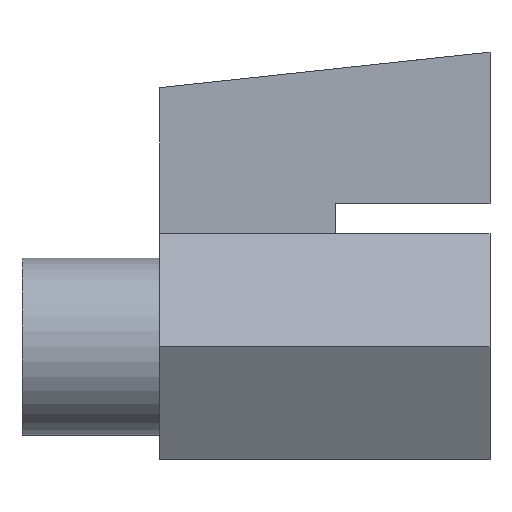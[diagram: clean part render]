
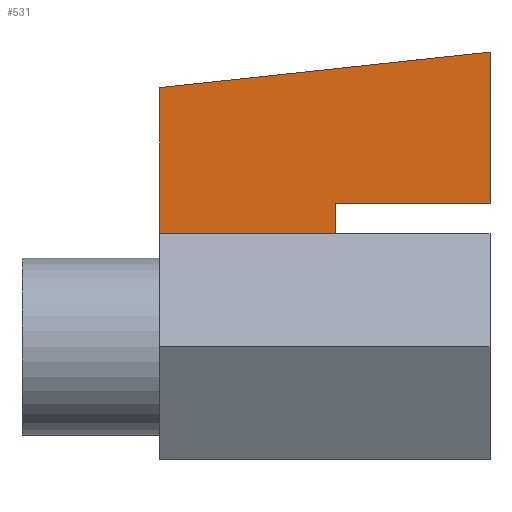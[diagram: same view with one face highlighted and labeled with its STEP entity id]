
A CAD part, front view. The second image highlights one B-rep face of the part: STEP entity #531.
In plain terms, the highlighted planar face has unit normal (0, -1, 0).
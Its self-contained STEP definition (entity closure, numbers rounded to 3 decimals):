
#67 = PLANE('',#68);
#68 = AXIS2_PLACEMENT_3D('',#69,#70,#71);
#69 = CARTESIAN_POINT('',(-0.6,0.18,1.006));
#70 = DIRECTION('',(-0.107,0.,0.994));
#71 = DIRECTION('',(-0.994,0.,-0.107));
#188 = EDGE_CURVE('',#189,#191,#193,.T.);
#189 = VERTEX_POINT('',#190);
#190 = CARTESIAN_POINT('',(0.,-0.18,0.52));
#191 = VERTEX_POINT('',#192);
#192 = CARTESIAN_POINT('',(-0.56,-0.18,0.52));
#193 = SURFACE_CURVE('',#194,(#198,#210),.PCURVE_S1.);
#194 = LINE('',#195,#196);
#195 = CARTESIAN_POINT('',(0.,-0.18,0.52));
#196 = VECTOR('',#197,1.);
#197 = DIRECTION('',(-1.,0.,0.));
#198 = PCURVE('',#199,#204);
#199 = PLANE('',#200);
#200 = AXIS2_PLACEMENT_3D('',#201,#202,#203);
#201 = CARTESIAN_POINT('',(-0.28,0.18,0.52));
#202 = DIRECTION('',(0.,0.,-1.));
#203 = DIRECTION('',(1.,0.,0.));
#204 = DEFINITIONAL_REPRESENTATION('',(#205),#209);
#205 = LINE('',#206,#207);
#206 = CARTESIAN_POINT('',(0.28,0.36));
#207 = VECTOR('',#208,1.);
#208 = DIRECTION('',(-1.,0.));
#209 = ( GEOMETRIC_REPRESENTATION_CONTEXT(2) 
PARAMETRIC_REPRESENTATION_CONTEXT() REPRESENTATION_CONTEXT('2D SPACE',''
  ) );
#210 = PCURVE('',#211,#216);
#211 = PLANE('',#212);
#212 = AXIS2_PLACEMENT_3D('',#213,#214,#215);
#213 = CARTESIAN_POINT('',(-0.595,-0.18,0.727));
#214 = DIRECTION('',(0.,1.,0.));
#215 = DIRECTION('',(0.,-0.,1.));
#216 = DEFINITIONAL_REPRESENTATION('',(#217),#221);
#217 = LINE('',#218,#219);
#218 = CARTESIAN_POINT('',(-0.207,0.595));
#219 = VECTOR('',#220,1.);
#220 = DIRECTION('',(0.,-1.));
#221 = ( GEOMETRIC_REPRESENTATION_CONTEXT(2) 
PARAMETRIC_REPRESENTATION_CONTEXT() REPRESENTATION_CONTEXT('2D SPACE',''
  ) );
#239 = PLANE('',#240);
#240 = AXIS2_PLACEMENT_3D('',#241,#242,#243);
#241 = CARTESIAN_POINT('',(-0.56,0.18,0.466));
#242 = DIRECTION('',(1.,0.,0.));
#243 = DIRECTION('',(0.,0.,1.));
#293 = PLANE('',#294);
#294 = AXIS2_PLACEMENT_3D('',#295,#296,#297);
#295 = CARTESIAN_POINT('',(0.,0.18,0.795));
#296 = DIRECTION('',(1.,0.,0.));
#297 = DIRECTION('',(0.,0.,1.));
#308 = EDGE_CURVE('',#191,#309,#311,.T.);
#309 = VERTEX_POINT('',#310);
#310 = CARTESIAN_POINT('',(-0.56,-0.18,0.411));
#311 = SURFACE_CURVE('',#312,(#316,#323),.PCURVE_S1.);
#312 = LINE('',#313,#314);
#313 = CARTESIAN_POINT('',(-0.56,-0.18,0.52));
#314 = VECTOR('',#315,1.);
#315 = DIRECTION('',(0.,0.,-1.));
#316 = PCURVE('',#239,#317);
#317 = DEFINITIONAL_REPRESENTATION('',(#318),#322);
#318 = LINE('',#319,#320);
#319 = CARTESIAN_POINT('',(0.055,0.36));
#320 = VECTOR('',#321,1.);
#321 = DIRECTION('',(-1.,0.));
#322 = ( GEOMETRIC_REPRESENTATION_CONTEXT(2) 
PARAMETRIC_REPRESENTATION_CONTEXT() REPRESENTATION_CONTEXT('2D SPACE',''
  ) );
#323 = PCURVE('',#211,#324);
#324 = DEFINITIONAL_REPRESENTATION('',(#325),#329);
#325 = LINE('',#326,#327);
#326 = CARTESIAN_POINT('',(-0.207,0.035));
#327 = VECTOR('',#328,1.);
#328 = DIRECTION('',(-1.,0.));
#329 = ( GEOMETRIC_REPRESENTATION_CONTEXT(2) 
PARAMETRIC_REPRESENTATION_CONTEXT() REPRESENTATION_CONTEXT('2D SPACE',''
  ) );
#347 = PLANE('',#348);
#348 = AXIS2_PLACEMENT_3D('',#349,#350,#351);
#349 = CARTESIAN_POINT('',(0.,0.,0.411));
#350 = DIRECTION('',(0.,0.,1.));
#351 = DIRECTION('',(0.,1.,0.));
#388 = EDGE_CURVE('',#389,#391,#393,.T.);
#389 = VERTEX_POINT('',#390);
#390 = CARTESIAN_POINT('',(-1.2,-0.18,0.941));
#391 = VERTEX_POINT('',#392);
#392 = CARTESIAN_POINT('',(0.,-0.18,1.07));
#393 = SURFACE_CURVE('',#394,(#398,#405),.PCURVE_S1.);
#394 = LINE('',#395,#396);
#395 = CARTESIAN_POINT('',(-1.2,-0.18,0.941));
#396 = VECTOR('',#397,1.);
#397 = DIRECTION('',(0.994,0.,0.107));
#398 = PCURVE('',#67,#399);
#399 = DEFINITIONAL_REPRESENTATION('',(#400),#404);
#400 = LINE('',#401,#402);
#401 = CARTESIAN_POINT('',(0.603,0.36));
#402 = VECTOR('',#403,1.);
#403 = DIRECTION('',(-1.,0.));
#404 = ( GEOMETRIC_REPRESENTATION_CONTEXT(2) 
PARAMETRIC_REPRESENTATION_CONTEXT() REPRESENTATION_CONTEXT('2D SPACE',''
  ) );
#405 = PCURVE('',#211,#406);
#406 = DEFINITIONAL_REPRESENTATION('',(#407),#411);
#407 = LINE('',#408,#409);
#408 = CARTESIAN_POINT('',(0.214,-0.605));
#409 = VECTOR('',#410,1.);
#410 = DIRECTION('',(0.107,0.994));
#411 = ( GEOMETRIC_REPRESENTATION_CONTEXT(2) 
PARAMETRIC_REPRESENTATION_CONTEXT() REPRESENTATION_CONTEXT('2D SPACE',''
  ) );
#473 = PLANE('',#474);
#474 = AXIS2_PLACEMENT_3D('',#475,#476,#477);
#475 = CARTESIAN_POINT('',(-1.2,0.,0.)
  );
#476 = DIRECTION('',(-1.,0.,0.));
#477 = DIRECTION('',(0.,0.,1.));
#488 = EDGE_CURVE('',#391,#189,#489,.T.);
#489 = SURFACE_CURVE('',#490,(#494,#501),.PCURVE_S1.);
#490 = LINE('',#491,#492);
#491 = CARTESIAN_POINT('',(0.,-0.18,1.07));
#492 = VECTOR('',#493,1.);
#493 = DIRECTION('',(0.,0.,-1.));
#494 = PCURVE('',#293,#495);
#495 = DEFINITIONAL_REPRESENTATION('',(#496),#500);
#496 = LINE('',#497,#498);
#497 = CARTESIAN_POINT('',(0.275,0.36));
#498 = VECTOR('',#499,1.);
#499 = DIRECTION('',(-1.,0.));
#500 = ( GEOMETRIC_REPRESENTATION_CONTEXT(2) 
PARAMETRIC_REPRESENTATION_CONTEXT() REPRESENTATION_CONTEXT('2D SPACE',''
  ) );
#501 = PCURVE('',#211,#502);
#502 = DEFINITIONAL_REPRESENTATION('',(#503),#507);
#503 = LINE('',#504,#505);
#504 = CARTESIAN_POINT('',(0.343,0.595));
#505 = VECTOR('',#506,1.);
#506 = DIRECTION('',(-1.,0.));
#507 = ( GEOMETRIC_REPRESENTATION_CONTEXT(2) 
PARAMETRIC_REPRESENTATION_CONTEXT() REPRESENTATION_CONTEXT('2D SPACE',''
  ) );
#531 = ADVANCED_FACE('',(#532),#211,.F.);
#532 = FACE_BOUND('',#533,.T.);
#533 = EDGE_LOOP('',(#534,#535,#536,#537,#560,#581));
#534 = ORIENTED_EDGE('',*,*,#188,.F.);
#535 = ORIENTED_EDGE('',*,*,#488,.F.);
#536 = ORIENTED_EDGE('',*,*,#388,.F.);
#537 = ORIENTED_EDGE('',*,*,#538,.F.);
#538 = EDGE_CURVE('',#539,#389,#541,.T.);
#539 = VERTEX_POINT('',#540);
#540 = CARTESIAN_POINT('',(-1.2,-0.18,0.411));
#541 = SURFACE_CURVE('',#542,(#546,#553),.PCURVE_S1.);
#542 = LINE('',#543,#544);
#543 = CARTESIAN_POINT('',(-1.2,-0.18,0.411));
#544 = VECTOR('',#545,1.);
#545 = DIRECTION('',(0.,0.,1.));
#546 = PCURVE('',#211,#547);
#547 = DEFINITIONAL_REPRESENTATION('',(#548),#552);
#548 = LINE('',#549,#550);
#549 = CARTESIAN_POINT('',(-0.316,-0.605));
#550 = VECTOR('',#551,1.);
#551 = DIRECTION('',(1.,0.));
#552 = ( GEOMETRIC_REPRESENTATION_CONTEXT(2) 
PARAMETRIC_REPRESENTATION_CONTEXT() REPRESENTATION_CONTEXT('2D SPACE',''
  ) );
#553 = PCURVE('',#473,#554);
#554 = DEFINITIONAL_REPRESENTATION('',(#555),#559);
#555 = LINE('',#556,#557);
#556 = CARTESIAN_POINT('',(0.411,-0.18));
#557 = VECTOR('',#558,1.);
#558 = DIRECTION('',(1.,0.));
#559 = ( GEOMETRIC_REPRESENTATION_CONTEXT(2) 
PARAMETRIC_REPRESENTATION_CONTEXT() REPRESENTATION_CONTEXT('2D SPACE',''
  ) );
#560 = ORIENTED_EDGE('',*,*,#561,.F.);
#561 = EDGE_CURVE('',#309,#539,#562,.T.);
#562 = SURFACE_CURVE('',#563,(#567,#574),.PCURVE_S1.);
#563 = LINE('',#564,#565);
#564 = CARTESIAN_POINT('',(-0.298,-0.18,0.411));
#565 = VECTOR('',#566,1.);
#566 = DIRECTION('',(-1.,0.,0.));
#567 = PCURVE('',#211,#568);
#568 = DEFINITIONAL_REPRESENTATION('',(#569),#573);
#569 = LINE('',#570,#571);
#570 = CARTESIAN_POINT('',(-0.316,0.298));
#571 = VECTOR('',#572,1.);
#572 = DIRECTION('',(0.,-1.));
#573 = ( GEOMETRIC_REPRESENTATION_CONTEXT(2) 
PARAMETRIC_REPRESENTATION_CONTEXT() REPRESENTATION_CONTEXT('2D SPACE',''
  ) );
#574 = PCURVE('',#347,#575);
#575 = DEFINITIONAL_REPRESENTATION('',(#576),#580);
#576 = LINE('',#577,#578);
#577 = CARTESIAN_POINT('',(-0.18,0.298));
#578 = VECTOR('',#579,1.);
#579 = DIRECTION('',(0.,1.));
#580 = ( GEOMETRIC_REPRESENTATION_CONTEXT(2) 
PARAMETRIC_REPRESENTATION_CONTEXT() REPRESENTATION_CONTEXT('2D SPACE',''
  ) );
#581 = ORIENTED_EDGE('',*,*,#308,.F.);
